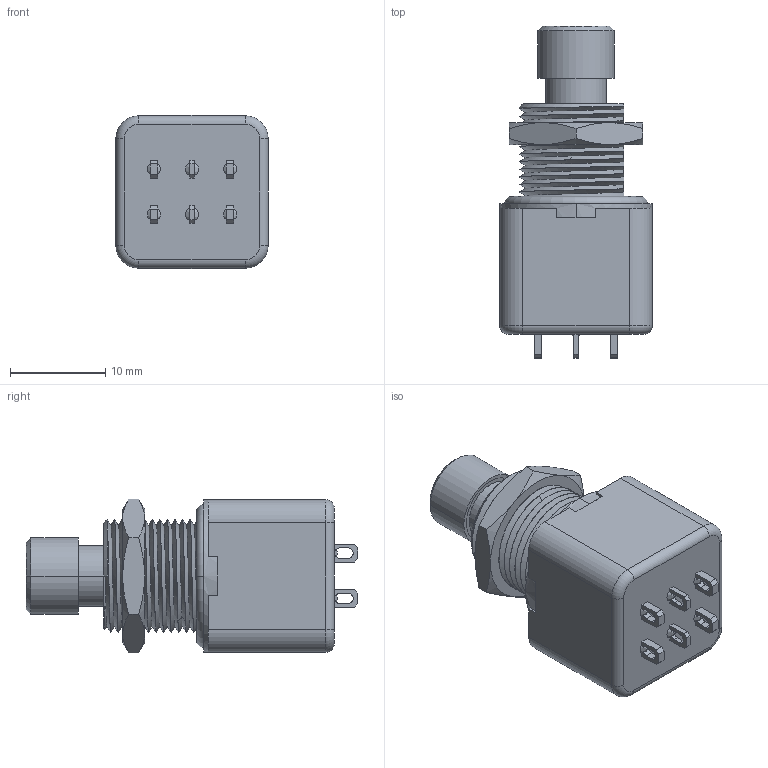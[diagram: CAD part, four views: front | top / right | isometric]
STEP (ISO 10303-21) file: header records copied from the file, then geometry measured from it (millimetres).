
FILE_DESCRIPTION((''),'2;1');
FILE_NAME('13446_3X778','2012-05-30T',('francis'),(''),'PRO/ENGINEER BY PARAMETRIC TECHNOLOGY CORPORATION, 2011250','PRO/ENGINEER BY PARAMETRIC TECHNOLOGY CORPORATION, 2011250','');
FILE_SCHEMA(('CONFIG_CONTROL_DESIGN'));
Length unit declared in the file: millimetre
Products named in the file (1): 13446_3X778
Bounding box: 16 x 34.85 x 16.17 mm (x, y, z)
Volume: 4973.3 mm3; surface area: 2641.2 mm2
Topology: 1 solids, 2 shells, 221 faces, 627 edges, 396 vertices
Faces by surface type: plane 97, cylinder 51, bspline 41, cone 24, torus 6, sphere 2
Entity records: 13214 total; most frequent: CARTESIAN_POINT 7851, ORIENTED_EDGE 1222, DIRECTION 952, EDGE_CURVE 611, VERTEX_POINT 396, AXIS2_PLACEMENT_3D 329, VECTOR 294, LINE 294
